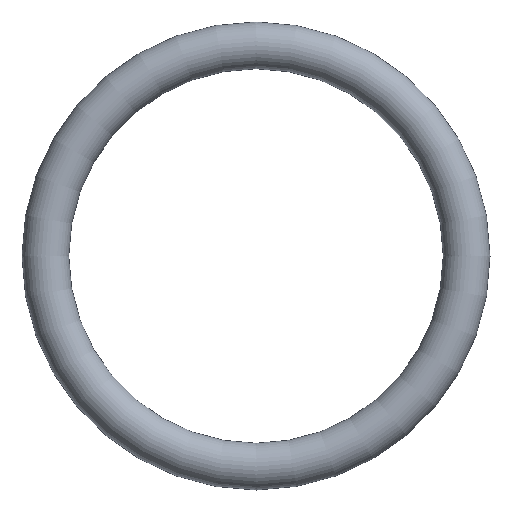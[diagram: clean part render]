
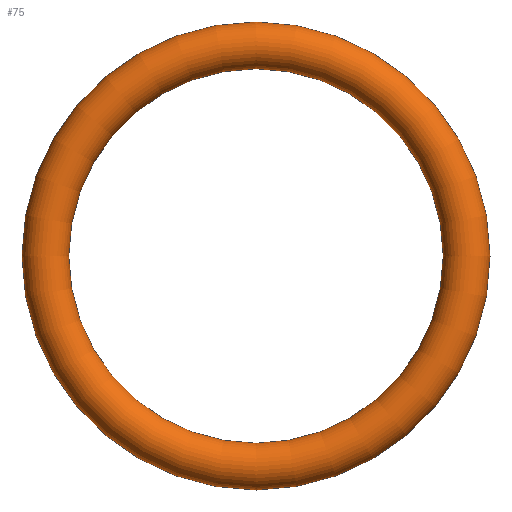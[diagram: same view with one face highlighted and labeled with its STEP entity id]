
A CAD part, front view. The second image highlights one B-rep face of the part: STEP entity #75.
In plain terms, the highlighted toroidal (fillet/blend) face has major radius 4.5 mm and minor radius 0.5 mm.
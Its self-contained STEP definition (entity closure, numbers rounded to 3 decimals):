
#75 = ADVANCED_FACE( '', ( #77 ), #78, .T. );
#77 = FACE_BOUND( '', #79, .T. );
#78 = TOROIDAL_SURFACE( '', #80, 4.5, 0.5 );
#79 = VERTEX_LOOP( '', #81 );
#80 = AXIS2_PLACEMENT_3D( '', #82, #83, #84 );
#81 = VERTEX_POINT( '', #85 );
#82 = CARTESIAN_POINT( '', ( 0., 0., 0. ) );
#83 = DIRECTION( '', ( 0., -1., 0. ) );
#84 = DIRECTION( '', ( 0., 0., -1. ) );
#85 = CARTESIAN_POINT( '', ( 0., 0., -5. ) );
